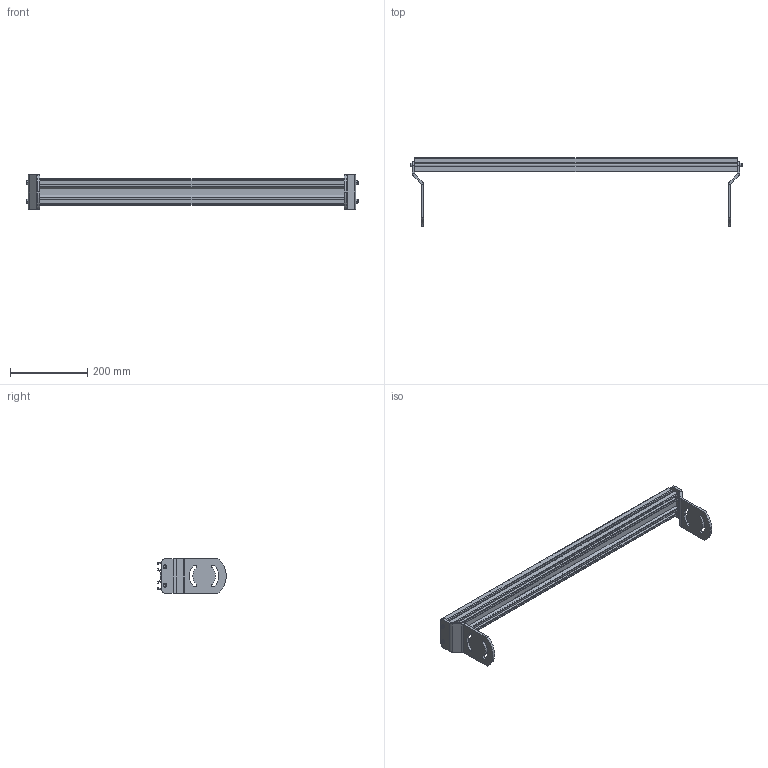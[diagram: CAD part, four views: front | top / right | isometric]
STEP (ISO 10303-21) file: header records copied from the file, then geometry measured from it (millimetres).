
FILE_DESCRIPTION((''),'2;1');
FILE_NAME('39MCM30-2_ASM','2023-03-01T',('jenni.wallner'),(''),'PRO/ENGINEER BY PARAMETRIC TECHNOLOGY CORPORATION, 2012420','PRO/ENGINEER BY PARAMETRIC TECHNOLOGY CORPORATION, 2012420','');
FILE_SCHEMA(('CONFIG_CONTROL_DESIGN'));
Length unit declared in the file: inch
Products named in the file (4): 710210_03279; 300825M; 708180P; 39MCM30-2_ASM
Assembly tree (7 placements, depth 2):
  39MCM30-2_ASM
    710210_03279
    300825M  x2
    708180P  x4
Bounding box: 857.57 x 176.65 x 88.93 mm (x, y, z)
Volume: 767458.9 mm3; surface area: 559965.5 mm2
Topology: 7 solids, 7 shells, 256 faces, 662 edges, 428 vertices
Faces by surface type: plane 144, cylinder 92, cone 20
Entity records: 4895 total; most frequent: CARTESIAN_POINT 859, DIRECTION 825, ORIENTED_EDGE 816, EDGE_CURVE 408, VECTOR 301, LINE 301, VERTEX_POINT 266, AXIS2_PLACEMENT_3D 262
